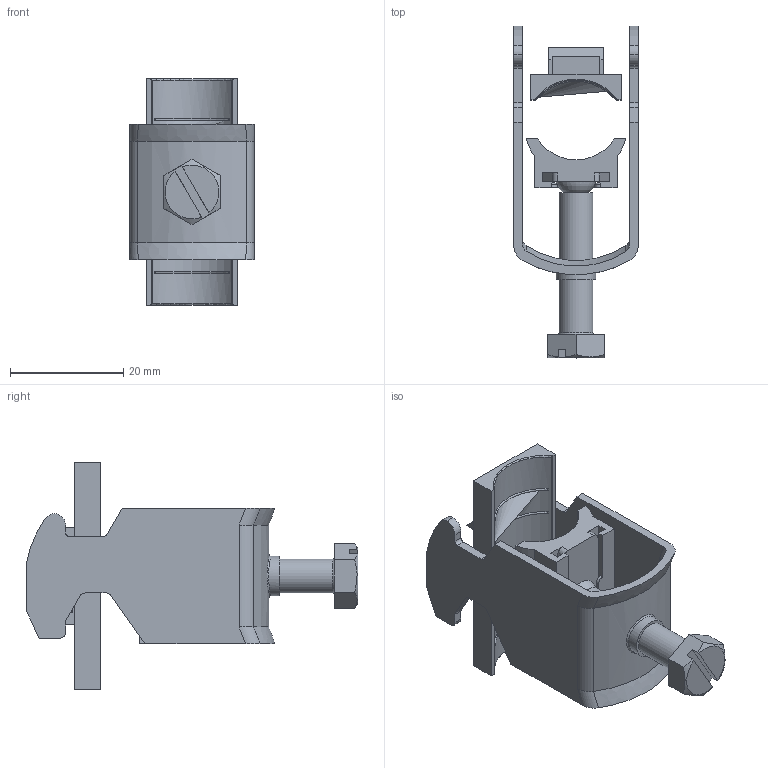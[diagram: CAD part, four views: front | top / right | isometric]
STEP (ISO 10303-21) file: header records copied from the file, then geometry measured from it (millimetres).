
FILE_DESCRIPTION(('STEP AP214'), '1');
FILE_NAME('Çàæèì êàáåëüíûé, 12-18', '2025-11-28T10:05:55', (''), (''), 'ASCON STEP Converter 1.6', 'ASCON Math Kernel', '');
FILE_SCHEMA(('AUTOMOTIVE_DESIGN { 1 0 10303 214 3 1 1}'));
Length unit declared in the file: millimetre
Bounding box: 22 x 58.7 x 40 mm (x, y, z)
Volume: 7539.4 mm3; surface area: 9561.6 mm2
Topology: 3 solids, 5 shells, 181 faces, 483 edges, 318 vertices
Faces by surface type: plane 106, cylinder 45, bspline 14, torus 8, cone 7, sphere 1
Full cylindrical faces by diameter (mm): 2 x1, 4 x1, 4.2 x1, 6 x2, 7 x1
Entity records: 8808 total; most frequent: CARTESIAN_POINT 2848, ORIENTED_EDGE 932, DIRECTION 890, EDGE_CURVE 466, VERTEX_POINT 314, LINE 306, VECTOR 306, AXIS2_PLACEMENT_3D 292
